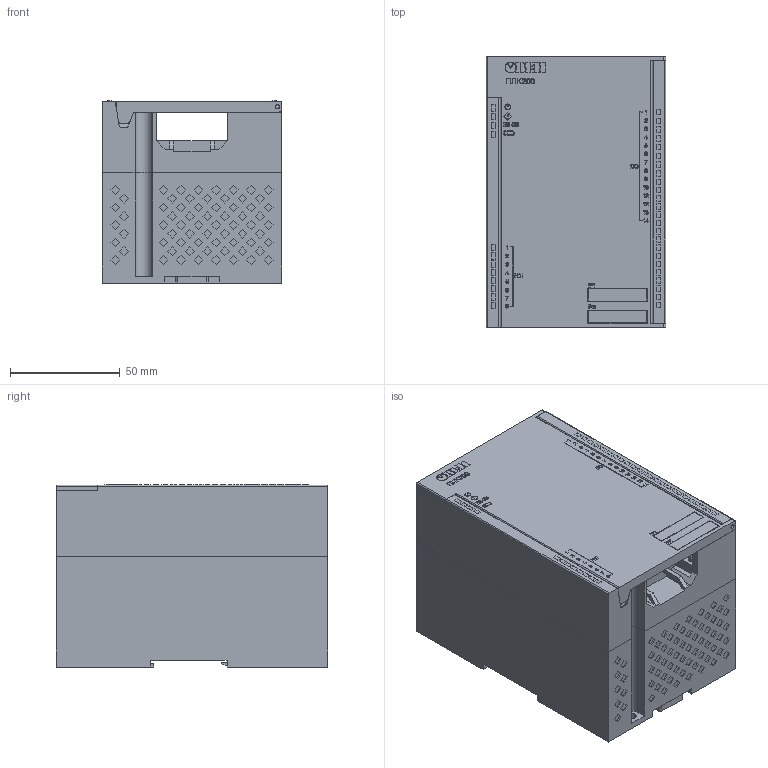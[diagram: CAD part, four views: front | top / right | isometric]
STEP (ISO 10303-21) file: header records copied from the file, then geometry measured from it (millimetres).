
FILE_DESCRIPTION (( 'STEP AP214' ), '1' );
FILE_NAME ('3D Ìîäåëü ÏËÊ200-01-CS.STEP', '2021-05-13T11:56:25', ( '' ), ( '' ), 'SwSTEP 2.0', 'SolidWorks 2015', '' );
FILE_SCHEMA (( 'AUTOMOTIVE_DESIGN' ));
Length unit declared in the file: millimetre
Products named in the file (9): 扻豵鵨 玹佤00; 3D Ìîäåëü ÏËÊ200-01-CS; Ethernet; Ôèêñàòîð ÏËÊ; Êëåììíèê 2çåë; micro usb b; Ðîçåòêà ÏËÊ; Ðîçåòêà ÏËÊ — ëåâàÿ; 署赅 纤蔩00
Assembly tree (9 placements, depth 2):
  3D Ìîäåëü ÏËÊ200-01-CS
    扻豵鵨 玹佤00
    Ôèêñàòîð ÏËÊ
    Ðîçåòêà ÏËÊ
    Ðîçåòêà ÏËÊ — ëåâàÿ
    署赅 纤蔩00
    micro usb b
    Ethernet  x2
    Êëåììíèê 2çåë
Bounding box: 82 x 124.04 x 83.1 mm (x, y, z)
Volume: 728632.7 mm3; surface area: 136000 mm2
Topology: 55 solids, 55 shells, 9338 faces, 26694 edges, 17808 vertices
Faces by surface type: plane 8870, cylinder 251, torus 133, cone 84
Entity records: 387806 total; most frequent: CARTESIAN_POINT 55487, ORIENTED_EDGE 53100, DIRECTION 45629, EDGE_CURVE 26550, VECTOR 25009, LINE 25009, VERTEX_POINT 17712, AXIS2_PLACEMENT_3D 10310
